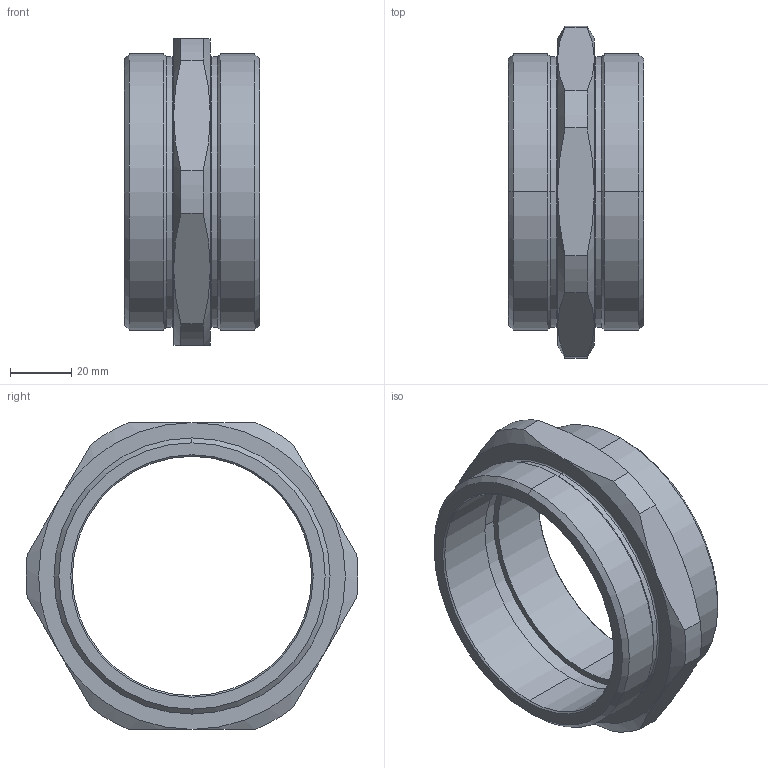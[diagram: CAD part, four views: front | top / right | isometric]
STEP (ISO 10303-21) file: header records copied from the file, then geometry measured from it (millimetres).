
FILE_DESCRIPTION (( 'STEP AP214' ), '1' );
FILE_NAME ('ﾍﾂﾍ8Mﾍ.STEP', '2019-06-05T11:21:55', ( '' ), ( '' ), 'SwSTEP 2.0', 'SolidWorks 2012', '' );
FILE_SCHEMA (( 'AUTOMOTIVE_DESIGN' ));
Length unit declared in the file: millimetre
Products named in the file (1): ﾍﾂﾍ8Mﾍ
Bounding box: 44 x 108.2 x 100 mm (x, y, z)
Volume: 88995.8 mm3; surface area: 31707 mm2
Topology: 1 solids, 1 shells, 60 faces, 130 edges, 76 vertices
Faces by surface type: cone 24, cylinder 20, plane 12, torus 4
Entity records: 1828 total; most frequent: CARTESIAN_POINT 435, DIRECTION 296, ORIENTED_EDGE 260, EDGE_CURVE 130, AXIS2_PLACEMENT_3D 129, VERTEX_POINT 76, CIRCLE 68, EDGE_LOOP 66
